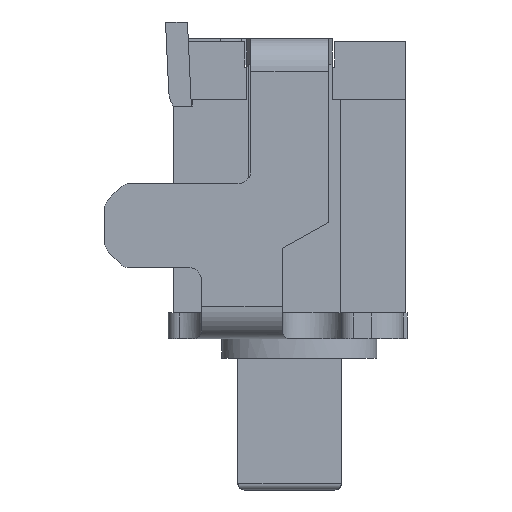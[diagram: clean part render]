
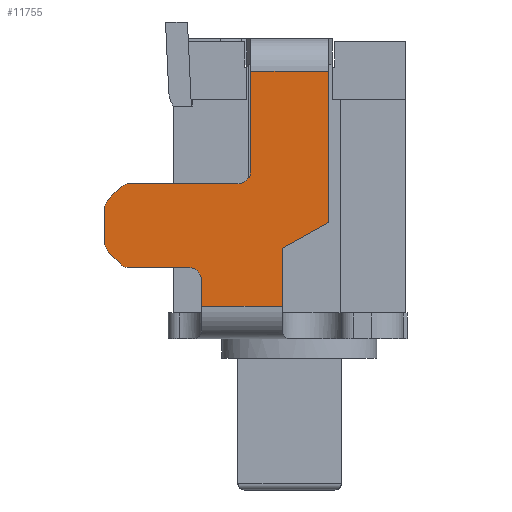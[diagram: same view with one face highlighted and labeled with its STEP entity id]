
A CAD part, left-side view. The second image highlights one B-rep face of the part: STEP entity #11755.
In plain terms, the highlighted planar face has unit normal (-1, 0, 0).
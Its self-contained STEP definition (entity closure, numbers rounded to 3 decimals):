
#180 = DIRECTION ( 'NONE',  ( 0., 0., -1. ) ) ;
#279 = LINE ( 'NONE', #9182, #18718 ) ;
#317 = EDGE_CURVE ( 'NONE', #5579, #12228, #279, .T. ) ;
#476 = LINE ( 'NONE', #2066, #18551 ) ;
#495 = VERTEX_POINT ( 'NONE', #768 ) ;
#548 = EDGE_LOOP ( 'NONE', ( #16653, #16602, #3362, #18994, #17114, #19193, #10763, #18334, #2445, #13204, #10213, #11349, #4928, #16394, #17417, #14848, #6659, #7156 ) ) ;
#721 = VERTEX_POINT ( 'NONE', #4175 ) ;
#742 = EDGE_CURVE ( 'NONE', #9242, #8733, #5411, .T. ) ;
#744 = DIRECTION ( 'NONE',  ( 0., 0., -1. ) ) ;
#768 = CARTESIAN_POINT ( 'NONE',  ( -19.013, 10.371, 0.809 ) ) ;
#1002 = DIRECTION ( 'NONE',  ( 0., 0., 1. ) ) ;
#1069 = CARTESIAN_POINT ( 'NONE',  ( -19.013, 8.998, 0.5 ) ) ;
#1274 = CARTESIAN_POINT ( 'NONE',  ( -19.013, 10.271, 0.541 ) ) ;
#1360 = CARTESIAN_POINT ( 'NONE',  ( -19.013, 8.998, 0.5 ) ) ;
#1436 = VERTEX_POINT ( 'NONE', #9087 ) ;
#1497 = VERTEX_POINT ( 'NONE', #7985 ) ;
#1540 = CIRCLE ( 'NONE', #7617, 0.1 ) ;
#1642 = VECTOR ( 'NONE', #14743, 1000. ) ;
#1661 = EDGE_CURVE ( 'NONE', #16192, #6123, #9229, .T. ) ;
#1672 = DIRECTION ( 'NONE',  ( 0., 1., 0. ) ) ;
#1750 = VECTOR ( 'NONE', #1976, 1000. ) ;
#1976 = DIRECTION ( 'NONE',  ( 0., 0., -1. ) ) ;
#2066 = CARTESIAN_POINT ( 'NONE',  ( -19.013, 9.621, 0.335 ) ) ;
#2174 = LINE ( 'NONE', #8287, #1750 ) ;
#2292 = AXIS2_PLACEMENT_3D ( 'NONE', #16136, #14361, #7051 ) ;
#2331 = DIRECTION ( 'NONE',  ( -1., 0., 0. ) ) ;
#2383 = CARTESIAN_POINT ( 'NONE',  ( -19.013, 8.998, 0.05 ) ) ;
#2445 = ORIENTED_EDGE ( 'NONE', *, *, #13024, .F. ) ;
#2478 = DIRECTION ( 'NONE',  ( -1., 0., 0. ) ) ;
#2583 = VECTOR ( 'NONE', #1672, 1000. ) ;
#2856 = AXIS2_PLACEMENT_3D ( 'NONE', #1274, #2478, #11885 ) ;
#3050 = VERTEX_POINT ( 'NONE', #1360 ) ;
#3112 = CIRCLE ( 'NONE', #9834, 0.1 ) ;
#3130 = VECTOR ( 'NONE', #8843, 1000. ) ;
#3145 = VERTEX_POINT ( 'NONE', #11948 ) ;
#3362 = ORIENTED_EDGE ( 'NONE', *, *, #15190, .T. ) ;
#3564 = DIRECTION ( 'NONE',  ( 0., 0.707, -0.707 ) ) ;
#3725 = EDGE_CURVE ( 'NONE', #3050, #3145, #14771, .T. ) ;
#3770 = DIRECTION ( 'NONE',  ( 0., 0., -1. ) ) ;
#3941 = CARTESIAN_POINT ( 'NONE',  ( -19.013, 9.621, 0.05 ) ) ;
#3981 = EDGE_CURVE ( 'NONE', #6123, #4142, #12670, .T. ) ;
#4142 = VERTEX_POINT ( 'NONE', #14996 ) ;
#4175 = CARTESIAN_POINT ( 'NONE',  ( -19.013, 9.621, 0.25 ) ) ;
#4223 = DIRECTION ( 'NONE',  ( 1., 0., 0. ) ) ;
#4393 = VECTOR ( 'NONE', #17107, 1000. ) ;
#4815 = CARTESIAN_POINT ( 'NONE',  ( -19.013, 10.371, 1. ) ) ;
#4928 = ORIENTED_EDGE ( 'NONE', *, *, #7408, .T. ) ;
#4935 = CARTESIAN_POINT ( 'NONE',  ( -19.013, 10.371, 0.5 ) ) ;
#5031 = VECTOR ( 'NONE', #19136, 1000. ) ;
#5358 = DIRECTION ( 'NONE',  ( -1., 0., 0. ) ) ;
#5411 = CIRCLE ( 'NONE', #2856, 0.1 ) ;
#5457 = FACE_OUTER_BOUND ( 'NONE', #548, .T. ) ;
#5476 = CARTESIAN_POINT ( 'NONE',  ( -19.013, 8.641, 1.87 ) ) ;
#5486 = DIRECTION ( 'NONE',  ( 0., -0.872, 0.489 ) ) ;
#5503 = CARTESIAN_POINT ( 'NONE',  ( -19.013, 10.341, 0.471 ) ) ;
#5579 = VERTEX_POINT ( 'NONE', #16664 ) ;
#6123 = VERTEX_POINT ( 'NONE', #6895 ) ;
#6659 = ORIENTED_EDGE ( 'NONE', *, *, #13463, .F. ) ;
#6895 = CARTESIAN_POINT ( 'NONE',  ( -19.013, 10.25, 0.971 ) ) ;
#6900 = CARTESIAN_POINT ( 'NONE',  ( -19.013, 9.341, 1.1 ) ) ;
#6937 = DIRECTION ( 'NONE',  ( 0., 0., -1. ) ) ;
#6953 = DIRECTION ( 'NONE',  ( 0., 0., -1. ) ) ;
#7051 = DIRECTION ( 'NONE',  ( 0., 1., 0. ) ) ;
#7156 = ORIENTED_EDGE ( 'NONE', *, *, #19294, .T. ) ;
#7408 = EDGE_CURVE ( 'NONE', #495, #9242, #2174, .T. ) ;
#7617 = AXIS2_PLACEMENT_3D ( 'NONE', #11550, #2331, #744 ) ;
#7985 = CARTESIAN_POINT ( 'NONE',  ( -19.013, 10.25, 0.379 ) ) ;
#8205 = CARTESIAN_POINT ( 'NONE',  ( -19.013, 9.241, 1.1 ) ) ;
#8287 = CARTESIAN_POINT ( 'NONE',  ( -19.013, 10.371, 0.535 ) ) ;
#8616 = CARTESIAN_POINT ( 'NONE',  ( -19.013, 10.371, 0.541 ) ) ;
#8733 = VERTEX_POINT ( 'NONE', #5503 ) ;
#8801 = CIRCLE ( 'NONE', #11066, 0.1 ) ;
#8843 = DIRECTION ( 'NONE',  ( 0., 0., 1. ) ) ;
#8849 = EDGE_CURVE ( 'NONE', #17895, #5579, #12386, .T. ) ;
#9010 = EDGE_CURVE ( 'NONE', #721, #11717, #476, .T. ) ;
#9069 = CARTESIAN_POINT ( 'NONE',  ( -19.013, 9.341, 1. ) ) ;
#9087 = CARTESIAN_POINT ( 'NONE',  ( -19.013, 9.721, 0.35 ) ) ;
#9182 = CARTESIAN_POINT ( 'NONE',  ( -19.013, 9.241, 2.12 ) ) ;
#9229 = CIRCLE ( 'NONE', #12743, 0.1 ) ;
#9242 = VERTEX_POINT ( 'NONE', #8616 ) ;
#9697 = EDGE_CURVE ( 'NONE', #12228, #11448, #10881, .T. ) ;
#9763 = PLANE ( 'NONE',  #2292 ) ;
#9810 = DIRECTION ( 'NONE',  ( 1., 0., 0. ) ) ;
#9834 = AXIS2_PLACEMENT_3D ( 'NONE', #11655, #5358, #6953 ) ;
#10006 = LINE ( 'NONE', #16501, #18180 ) ;
#10047 = CARTESIAN_POINT ( 'NONE',  ( -19.013, 10.371, 0.35 ) ) ;
#10213 = ORIENTED_EDGE ( 'NONE', *, *, #3981, .T. ) ;
#10561 = LINE ( 'NONE', #16746, #3130 ) ;
#10763 = ORIENTED_EDGE ( 'NONE', *, *, #317, .T. ) ;
#10881 = CIRCLE ( 'NONE', #12473, 0.1 ) ;
#11048 = DIRECTION ( 'NONE',  ( 0., -0.707, -0.707 ) ) ;
#11066 = AXIS2_PLACEMENT_3D ( 'NONE', #14818, #4223, #6937 ) ;
#11349 = ORIENTED_EDGE ( 'NONE', *, *, #15852, .T. ) ;
#11448 = VERTEX_POINT ( 'NONE', #9069 ) ;
#11550 = CARTESIAN_POINT ( 'NONE',  ( -19.013, 10.271, 0.809 ) ) ;
#11655 = CARTESIAN_POINT ( 'NONE',  ( -19.013, 10.179, 0.45 ) ) ;
#11717 = VERTEX_POINT ( 'NONE', #3941 ) ;
#11755 = ADVANCED_FACE ( 'NONE', ( #5457 ), #9763, .F. ) ;
#11851 = CARTESIAN_POINT ( 'NONE',  ( -19.013, 9.621, 0.05 ) ) ;
#11876 = EDGE_CURVE ( 'NONE', #11717, #17618, #19323, .T. ) ;
#11885 = DIRECTION ( 'NONE',  ( 0., 0., -1. ) ) ;
#11945 = EDGE_CURVE ( 'NONE', #8733, #1497, #12344, .T. ) ;
#11948 = CARTESIAN_POINT ( 'NONE',  ( -19.013, 8.641, 0.7 ) ) ;
#12001 = VECTOR ( 'NONE', #5486, 1000. ) ;
#12228 = VERTEX_POINT ( 'NONE', #8205 ) ;
#12344 = LINE ( 'NONE', #4935, #19203 ) ;
#12386 = LINE ( 'NONE', #18567, #2583 ) ;
#12473 = AXIS2_PLACEMENT_3D ( 'NONE', #6900, #9810, #16088 ) ;
#12670 = LINE ( 'NONE', #14457, #17108 ) ;
#12743 = AXIS2_PLACEMENT_3D ( 'NONE', #13066, #14658, #18951 ) ;
#13024 = EDGE_CURVE ( 'NONE', #16192, #11448, #18499, .T. ) ;
#13054 = LINE ( 'NONE', #10047, #5031 ) ;
#13066 = CARTESIAN_POINT ( 'NONE',  ( -19.013, 10.179, 0.9 ) ) ;
#13204 = ORIENTED_EDGE ( 'NONE', *, *, #1661, .T. ) ;
#13459 = EDGE_CURVE ( 'NONE', #1497, #18005, #3112, .T. ) ;
#13463 = EDGE_CURVE ( 'NONE', #1436, #18005, #13054, .T. ) ;
#13610 = EDGE_CURVE ( 'NONE', #3145, #17895, #10561, .T. ) ;
#13759 = CARTESIAN_POINT ( 'NONE',  ( -19.013, 10.179, 0.35 ) ) ;
#14324 = CARTESIAN_POINT ( 'NONE',  ( -19.013, 10.179, 1. ) ) ;
#14361 = DIRECTION ( 'NONE',  ( 1., 0., 0. ) ) ;
#14457 = CARTESIAN_POINT ( 'NONE',  ( -19.013, 10.221, 1. ) ) ;
#14658 = DIRECTION ( 'NONE',  ( -1., 0., 0. ) ) ;
#14743 = DIRECTION ( 'NONE',  ( 0., -1., 0. ) ) ;
#14771 = LINE ( 'NONE', #1069, #12001 ) ;
#14818 = CARTESIAN_POINT ( 'NONE',  ( -19.013, 9.721, 0.25 ) ) ;
#14848 = ORIENTED_EDGE ( 'NONE', *, *, #13459, .T. ) ;
#14996 = CARTESIAN_POINT ( 'NONE',  ( -19.013, 10.341, 0.879 ) ) ;
#15190 = EDGE_CURVE ( 'NONE', #17618, #3050, #10006, .T. ) ;
#15852 = EDGE_CURVE ( 'NONE', #4142, #495, #1540, .T. ) ;
#16088 = DIRECTION ( 'NONE',  ( 0., 0., -1. ) ) ;
#16136 = CARTESIAN_POINT ( 'NONE',  ( -19.013, 9.621, 0.335 ) ) ;
#16192 = VERTEX_POINT ( 'NONE', #14324 ) ;
#16394 = ORIENTED_EDGE ( 'NONE', *, *, #742, .T. ) ;
#16501 = CARTESIAN_POINT ( 'NONE',  ( -19.013, 8.998, -0.2 ) ) ;
#16602 = ORIENTED_EDGE ( 'NONE', *, *, #11876, .T. ) ;
#16653 = ORIENTED_EDGE ( 'NONE', *, *, #9010, .T. ) ;
#16664 = CARTESIAN_POINT ( 'NONE',  ( -19.013, 9.241, 1.87 ) ) ;
#16746 = CARTESIAN_POINT ( 'NONE',  ( -19.013, 8.641, 0.7 ) ) ;
#17107 = DIRECTION ( 'NONE',  ( 0., -1., 0. ) ) ;
#17108 = VECTOR ( 'NONE', #3564, 1000. ) ;
#17114 = ORIENTED_EDGE ( 'NONE', *, *, #13610, .T. ) ;
#17417 = ORIENTED_EDGE ( 'NONE', *, *, #11945, .T. ) ;
#17618 = VERTEX_POINT ( 'NONE', #2383 ) ;
#17895 = VERTEX_POINT ( 'NONE', #5476 ) ;
#18005 = VERTEX_POINT ( 'NONE', #13759 ) ;
#18180 = VECTOR ( 'NONE', #1002, 1000. ) ;
#18334 = ORIENTED_EDGE ( 'NONE', *, *, #9697, .T. ) ;
#18499 = LINE ( 'NONE', #4815, #4393 ) ;
#18551 = VECTOR ( 'NONE', #3770, 1000. ) ;
#18567 = CARTESIAN_POINT ( 'NONE',  ( -19.013, 9.241, 1.87 ) ) ;
#18718 = VECTOR ( 'NONE', #180, 1000. ) ;
#18951 = DIRECTION ( 'NONE',  ( 0., 0., -1. ) ) ;
#18994 = ORIENTED_EDGE ( 'NONE', *, *, #3725, .T. ) ;
#19136 = DIRECTION ( 'NONE',  ( 0., 1., 0. ) ) ;
#19193 = ORIENTED_EDGE ( 'NONE', *, *, #8849, .T. ) ;
#19203 = VECTOR ( 'NONE', #11048, 1000. ) ;
#19294 = EDGE_CURVE ( 'NONE', #1436, #721, #8801, .T. ) ;
#19323 = LINE ( 'NONE', #11851, #1642 ) ;
